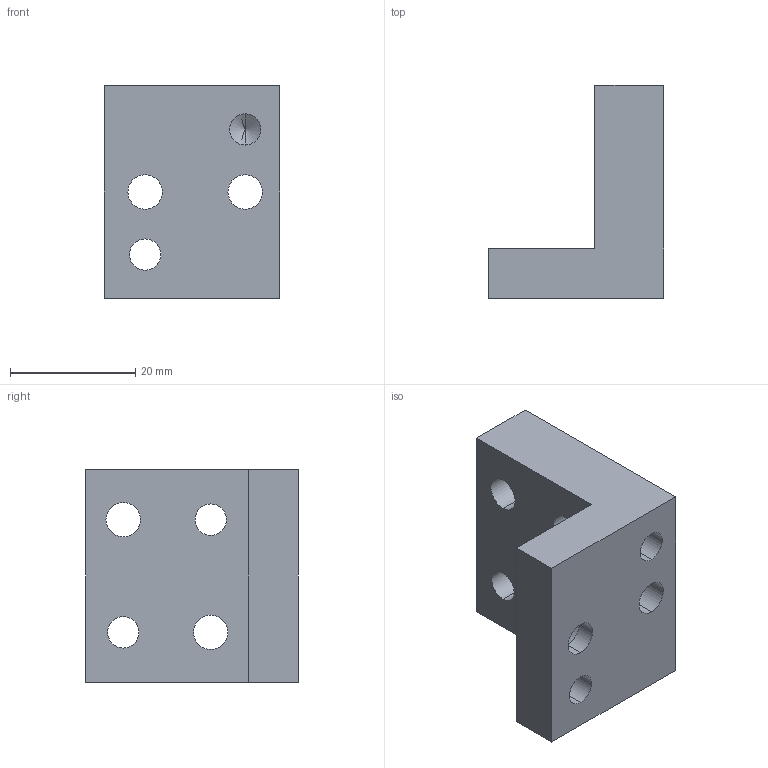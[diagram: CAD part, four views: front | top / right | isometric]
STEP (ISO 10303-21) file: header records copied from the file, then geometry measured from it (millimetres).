
FILE_DESCRIPTION (( 'STEP AP203' ), '1' );
FILE_NAME ('PPE40-L.step', '2017-02-15T12:25:41', ( '' ), ( '' ), 'SwSTEP 2.0', 'SolidWorks 2012', '' );
FILE_SCHEMA (( 'CONFIG_CONTROL_DESIGN' ));
Length unit declared in the file: millimetre
Products named in the file (1): PPE40-L
Bounding box: 28 x 34 x 34 mm (x, y, z)
Volume: 14307.8 mm3; surface area: 6837.5 mm2
Topology: 1 solids, 1 shells, 32 faces, 82 edges, 53 vertices
Faces by surface type: cylinder 20, plane 10, cone 2
Entity records: 1081 total; most frequent: DIRECTION 186, CARTESIAN_POINT 166, ORIENTED_EDGE 160, EDGE_CURVE 80, AXIS2_PLACEMENT_3D 73, VERTEX_POINT 53, EDGE_LOOP 49, VECTOR 40
